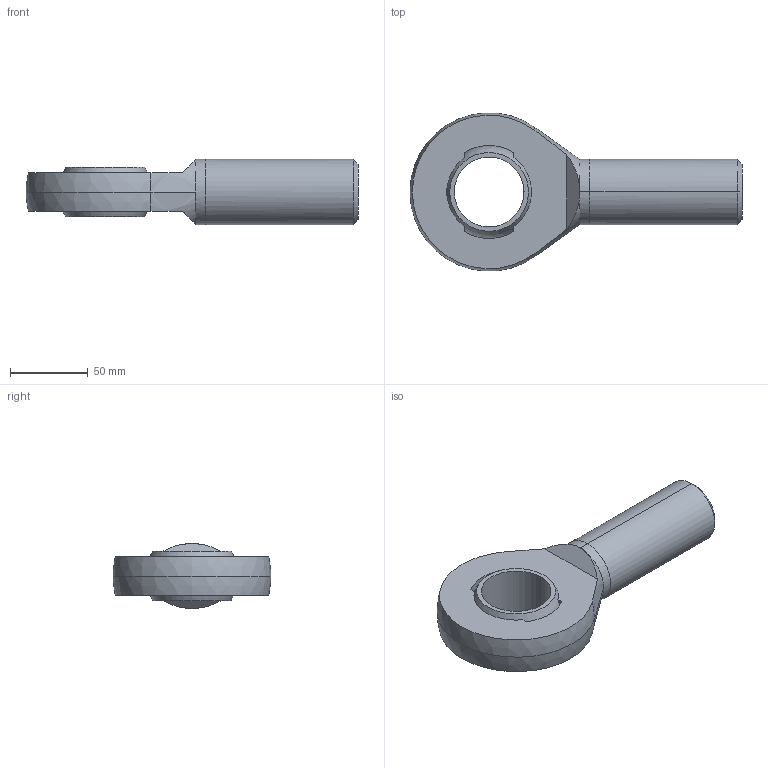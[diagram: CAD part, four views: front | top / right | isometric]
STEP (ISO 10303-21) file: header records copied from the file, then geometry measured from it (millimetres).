
FILE_DESCRIPTION (( 'STEP AP203' ), '1' );
FILE_NAME ('65860.W0046.step', '2014-02-06T11:45:14', ( 'User' ), ( '' ), 'SwSTEP 2.0', 'SolidWorks 2009', '' );
FILE_SCHEMA (( 'CONFIG_CONTROL_DESIGN' ));
Length unit declared in the file: millimetre
Products named in the file (3): Part1_65860.W0046; Part2_65860.W0046; 65860.W0046
Assembly tree (2 placements, depth 2):
  65860.W0046
    Part1_65860.W0046
    Part2_65860.W0046
Bounding box: 214 x 101.84 x 42 mm (x, y, z)
Volume: 323694.5 mm3; surface area: 50300.7 mm2
Topology: 2 solids, 2 shells, 35 faces, 82 edges, 51 vertices
Faces by surface type: plane 15, sphere 8, cylinder 8, cone 4
Entity records: 1389 total; most frequent: CARTESIAN_POINT 263, DIRECTION 196, ORIENTED_EDGE 160, AXIS2_PLACEMENT_3D 84, EDGE_CURVE 80, VERTEX_POINT 51, CIRCLE 44, EDGE_LOOP 41
